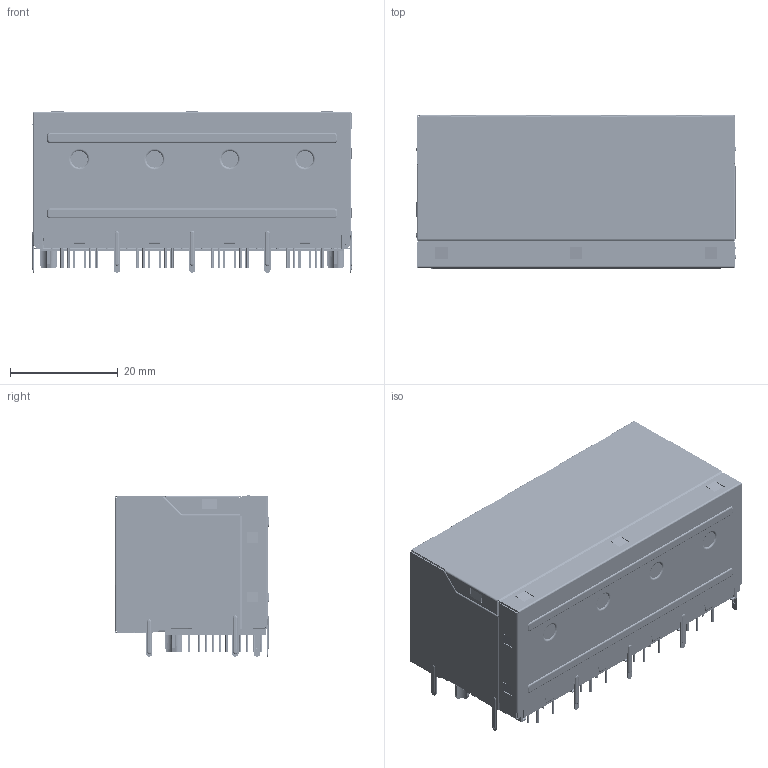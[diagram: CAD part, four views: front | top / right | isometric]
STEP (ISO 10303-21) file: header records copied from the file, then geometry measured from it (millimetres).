
FILE_DESCRIPTION((''),'2;1');
FILE_NAME('DGKYD24B289AB2A2DA057_ASM','2023-01-03T09:52:56',('Administrator'),(''),'CREO PARAMETRIC BY PTC INC, 2019010','CREO PARAMETRIC BY PTC INC, 2019010','');
FILE_SCHEMA(('CONFIG_CONTROL_DESIGN'));
Products named in the file (1): DGKYD24B289AB2A2DA057_ASM
Bounding box: 59.43 x 28.6 x 30.03 mm (x, y, z)
Volume: 21310.6 mm3; surface area: 43475.2 mm2
Topology: 1 solids, 2 shells, 8481 faces, 25539 edges, 16682 vertices
Faces by surface type: plane 6452, cylinder 1893, torus 70, bspline 54, cone 8, sphere 4
Entity records: 288653 total; most frequent: CARTESIAN_POINT 53306, ORIENTED_EDGE 51070, DIRECTION 46893, EDGE_CURVE 25535, VECTOR 20759, LINE 20759, VERTEX_POINT 16682, AXIS2_PLACEMENT_3D 13067
